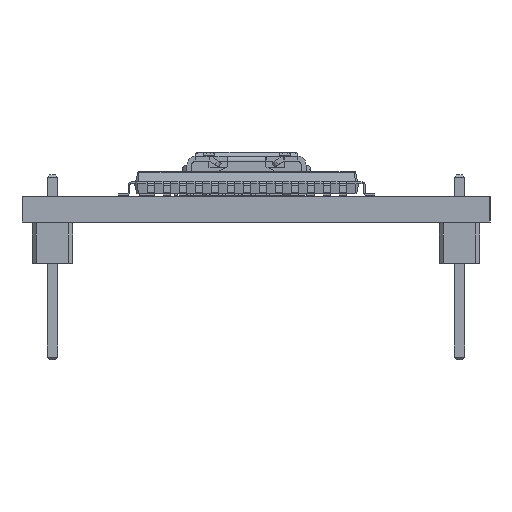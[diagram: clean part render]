
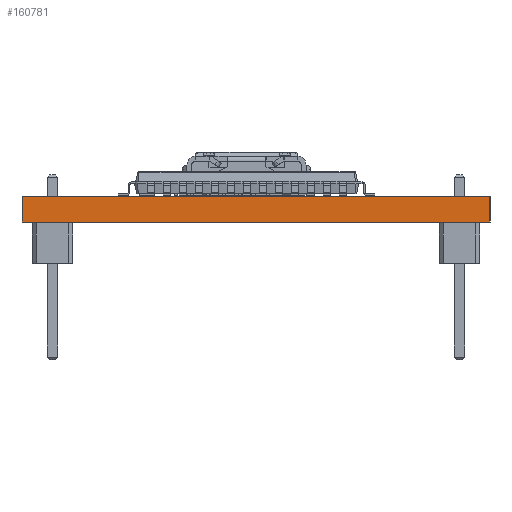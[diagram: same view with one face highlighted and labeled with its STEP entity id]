
A CAD part, left-side view. The second image highlights one B-rep face of the part: STEP entity #160781.
In plain terms, the highlighted planar face has unit normal (-1, 0, 0).
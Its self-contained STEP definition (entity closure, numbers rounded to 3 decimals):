
#160600 = PLANE('',#160601);
#160601 = AXIS2_PLACEMENT_3D('',#160602,#160603,#160604);
#160602 = CARTESIAN_POINT('',(26.246,-14.605,0.));
#160603 = DIRECTION('',(0.,-1.,0.));
#160604 = DIRECTION('',(-1.,0.,0.));
#160625 = VERTEX_POINT('',#160626);
#160626 = CARTESIAN_POINT('',(-26.246,-14.605,1.6));
#160640 = PLANE('',#160641);
#160641 = AXIS2_PLACEMENT_3D('',#160642,#160643,#160644);
#160642 = CARTESIAN_POINT('',(0.,0.,1.6));
#160643 = DIRECTION('',(-0.,-0.,-1.));
#160644 = DIRECTION('',(-1.,0.,0.));
#160652 = EDGE_CURVE('',#160653,#160625,#160655,.T.);
#160653 = VERTEX_POINT('',#160654);
#160654 = CARTESIAN_POINT('',(-26.246,-14.605,0.));
#160655 = SURFACE_CURVE('',#160656,(#160660,#160667),.PCURVE_S1.);
#160656 = LINE('',#160657,#160658);
#160657 = CARTESIAN_POINT('',(-26.246,-14.605,0.));
#160658 = VECTOR('',#160659,1.);
#160659 = DIRECTION('',(0.,0.,1.));
#160660 = PCURVE('',#160600,#160661);
#160661 = DEFINITIONAL_REPRESENTATION('',(#160662),#160666);
#160662 = LINE('',#160663,#160664);
#160663 = CARTESIAN_POINT('',(52.493,0.));
#160664 = VECTOR('',#160665,1.);
#160665 = DIRECTION('',(0.,-1.));
#160666 = ( GEOMETRIC_REPRESENTATION_CONTEXT(2) 
PARAMETRIC_REPRESENTATION_CONTEXT() REPRESENTATION_CONTEXT('2D SPACE',''
  ) );
#160667 = PCURVE('',#160668,#160673);
#160668 = PLANE('',#160669);
#160669 = AXIS2_PLACEMENT_3D('',#160670,#160671,#160672);
#160670 = CARTESIAN_POINT('',(-26.246,-14.605,0.));
#160671 = DIRECTION('',(-1.,0.,0.));
#160672 = DIRECTION('',(0.,1.,0.));
#160673 = DEFINITIONAL_REPRESENTATION('',(#160674),#160678);
#160674 = LINE('',#160675,#160676);
#160675 = CARTESIAN_POINT('',(0.,0.));
#160676 = VECTOR('',#160677,1.);
#160677 = DIRECTION('',(0.,-1.));
#160678 = ( GEOMETRIC_REPRESENTATION_CONTEXT(2) 
PARAMETRIC_REPRESENTATION_CONTEXT() REPRESENTATION_CONTEXT('2D SPACE',''
  ) );
#160694 = PLANE('',#160695);
#160695 = AXIS2_PLACEMENT_3D('',#160696,#160697,#160698);
#160696 = CARTESIAN_POINT('',(0.,0.,0.));
#160697 = DIRECTION('',(-0.,-0.,-1.));
#160698 = DIRECTION('',(-1.,0.,0.));
#160727 = PLANE('',#160728);
#160728 = AXIS2_PLACEMENT_3D('',#160729,#160730,#160731);
#160729 = CARTESIAN_POINT('',(-26.246,14.605,0.));
#160730 = DIRECTION('',(0.,1.,0.));
#160731 = DIRECTION('',(1.,0.,0.));
#160781 = ADVANCED_FACE('',(#160782),#160668,.T.);
#160782 = FACE_BOUND('',#160783,.T.);
#160783 = EDGE_LOOP('',(#160784,#160785,#160808,#160831));
#160784 = ORIENTED_EDGE('',*,*,#160652,.T.);
#160785 = ORIENTED_EDGE('',*,*,#160786,.T.);
#160786 = EDGE_CURVE('',#160625,#160787,#160789,.T.);
#160787 = VERTEX_POINT('',#160788);
#160788 = CARTESIAN_POINT('',(-26.246,14.605,1.6));
#160789 = SURFACE_CURVE('',#160790,(#160794,#160801),.PCURVE_S1.);
#160790 = LINE('',#160791,#160792);
#160791 = CARTESIAN_POINT('',(-26.246,-14.605,1.6));
#160792 = VECTOR('',#160793,1.);
#160793 = DIRECTION('',(0.,1.,0.));
#160794 = PCURVE('',#160668,#160795);
#160795 = DEFINITIONAL_REPRESENTATION('',(#160796),#160800);
#160796 = LINE('',#160797,#160798);
#160797 = CARTESIAN_POINT('',(0.,-1.6));
#160798 = VECTOR('',#160799,1.);
#160799 = DIRECTION('',(1.,0.));
#160800 = ( GEOMETRIC_REPRESENTATION_CONTEXT(2) 
PARAMETRIC_REPRESENTATION_CONTEXT() REPRESENTATION_CONTEXT('2D SPACE',''
  ) );
#160801 = PCURVE('',#160640,#160802);
#160802 = DEFINITIONAL_REPRESENTATION('',(#160803),#160807);
#160803 = LINE('',#160804,#160805);
#160804 = CARTESIAN_POINT('',(26.246,-14.605));
#160805 = VECTOR('',#160806,1.);
#160806 = DIRECTION('',(0.,1.));
#160807 = ( GEOMETRIC_REPRESENTATION_CONTEXT(2) 
PARAMETRIC_REPRESENTATION_CONTEXT() REPRESENTATION_CONTEXT('2D SPACE',''
  ) );
#160808 = ORIENTED_EDGE('',*,*,#160809,.F.);
#160809 = EDGE_CURVE('',#160810,#160787,#160812,.T.);
#160810 = VERTEX_POINT('',#160811);
#160811 = CARTESIAN_POINT('',(-26.246,14.605,0.));
#160812 = SURFACE_CURVE('',#160813,(#160817,#160824),.PCURVE_S1.);
#160813 = LINE('',#160814,#160815);
#160814 = CARTESIAN_POINT('',(-26.246,14.605,0.));
#160815 = VECTOR('',#160816,1.);
#160816 = DIRECTION('',(0.,0.,1.));
#160817 = PCURVE('',#160668,#160818);
#160818 = DEFINITIONAL_REPRESENTATION('',(#160819),#160823);
#160819 = LINE('',#160820,#160821);
#160820 = CARTESIAN_POINT('',(29.21,0.));
#160821 = VECTOR('',#160822,1.);
#160822 = DIRECTION('',(0.,-1.));
#160823 = ( GEOMETRIC_REPRESENTATION_CONTEXT(2) 
PARAMETRIC_REPRESENTATION_CONTEXT() REPRESENTATION_CONTEXT('2D SPACE',''
  ) );
#160824 = PCURVE('',#160727,#160825);
#160825 = DEFINITIONAL_REPRESENTATION('',(#160826),#160830);
#160826 = LINE('',#160827,#160828);
#160827 = CARTESIAN_POINT('',(0.,0.));
#160828 = VECTOR('',#160829,1.);
#160829 = DIRECTION('',(0.,-1.));
#160830 = ( GEOMETRIC_REPRESENTATION_CONTEXT(2) 
PARAMETRIC_REPRESENTATION_CONTEXT() REPRESENTATION_CONTEXT('2D SPACE',''
  ) );
#160831 = ORIENTED_EDGE('',*,*,#160832,.F.);
#160832 = EDGE_CURVE('',#160653,#160810,#160833,.T.);
#160833 = SURFACE_CURVE('',#160834,(#160838,#160845),.PCURVE_S1.);
#160834 = LINE('',#160835,#160836);
#160835 = CARTESIAN_POINT('',(-26.246,-14.605,0.));
#160836 = VECTOR('',#160837,1.);
#160837 = DIRECTION('',(0.,1.,0.));
#160838 = PCURVE('',#160668,#160839);
#160839 = DEFINITIONAL_REPRESENTATION('',(#160840),#160844);
#160840 = LINE('',#160841,#160842);
#160841 = CARTESIAN_POINT('',(0.,0.));
#160842 = VECTOR('',#160843,1.);
#160843 = DIRECTION('',(1.,0.));
#160844 = ( GEOMETRIC_REPRESENTATION_CONTEXT(2) 
PARAMETRIC_REPRESENTATION_CONTEXT() REPRESENTATION_CONTEXT('2D SPACE',''
  ) );
#160845 = PCURVE('',#160694,#160846);
#160846 = DEFINITIONAL_REPRESENTATION('',(#160847),#160851);
#160847 = LINE('',#160848,#160849);
#160848 = CARTESIAN_POINT('',(26.246,-14.605));
#160849 = VECTOR('',#160850,1.);
#160850 = DIRECTION('',(0.,1.));
#160851 = ( GEOMETRIC_REPRESENTATION_CONTEXT(2) 
PARAMETRIC_REPRESENTATION_CONTEXT() REPRESENTATION_CONTEXT('2D SPACE',''
  ) );
